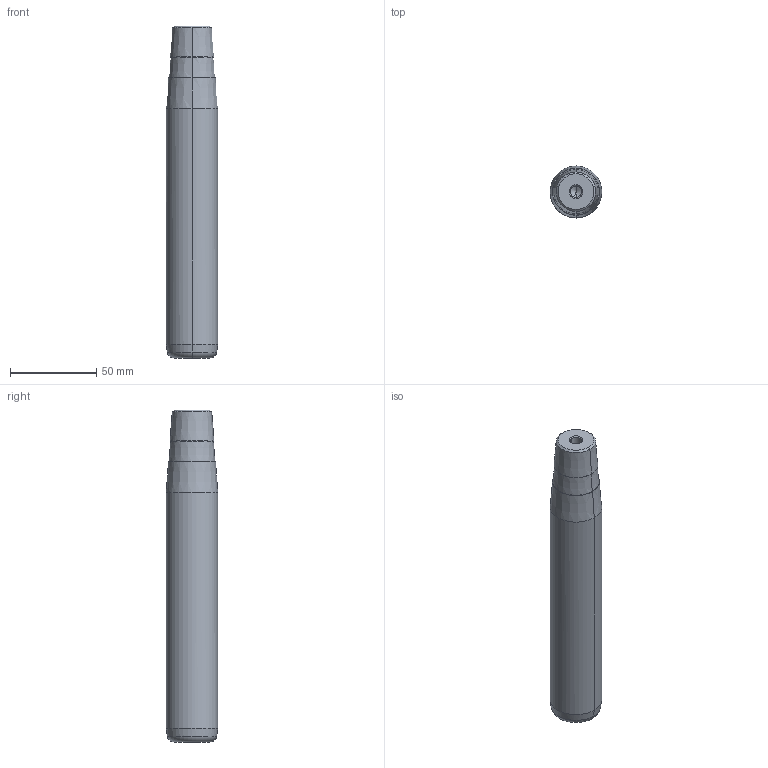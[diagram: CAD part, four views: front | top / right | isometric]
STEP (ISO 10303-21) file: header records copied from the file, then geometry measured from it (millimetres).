
FILE_DESCRIPTION(('CATIA V5 STEP Exchange'),'2;1');
FILE_NAME('C:\Users\Utente\Desktop\IO LAVORO\3D X SITO CF\X SITO\722\722-30x160x193.stp','2021-01-08T16:19:19+00:00',('none'),('none'),'CATIA Version 5 Release 20 GA (IN-10)','CATIA V5 STEP AP203','none');
FILE_SCHEMA(('CONFIG_CONTROL_DESIGN'));
Length unit declared in the file: millimetre
Products named in the file (1): 722-30x160x193
Bounding box: 30 x 30 x 193 mm (x, y, z)
Volume: 126125 mm3; surface area: 19605.4 mm2
Topology: 1 solids, 1 shells, 32 faces, 98 edges, 66 vertices
Faces by surface type: cone 22, cylinder 6, plane 2, torus 2
Entity records: 1166 total; most frequent: CARTESIAN_POINT 279, ORIENTED_EDGE 188, DIRECTION 148, EDGE_CURVE 94, AXIS2_PLACEMENT_3D 89, VERTEX_POINT 66, CIRCLE 56, EDGE_LOOP 34
